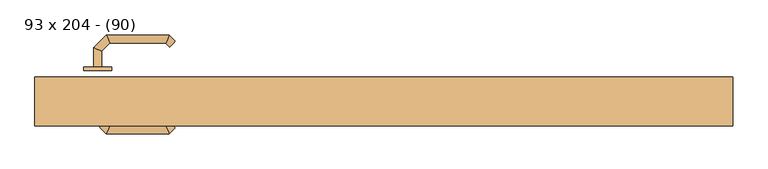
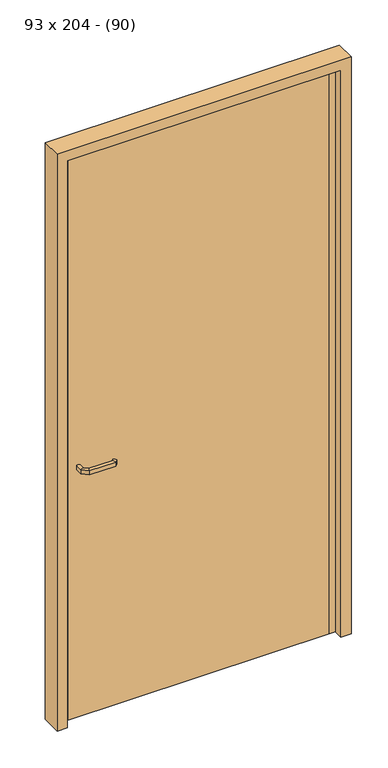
"""IFC4 building model written with IfcOpenShell, lengths in millimetres: door geometry, C&L Int. simple vantail (Dormant fixe) : 93 x 204 - (90)."""

from ifc_helpers import new_model, si_unit, point, frame, frame_2d, origin, origin_with_axes, place, context, project, spatial, polyline, circle_curve, ellipse_curve, trimmed, segment, composite_curve, outline, extrude, faceted_brep, source, transform, mapped, element, save
from ifc_brep_helpers import plane_surface, cylinder_surface, advanced_brep


def door_93_x_204_90_f07c62f8(model_context):
    return source(origin(), model_context, "Body", "SolidModel", [
        extrude(outline(composite_curve([segment(trimmed(circle_curve(frame_2d((804.6410162, -410.0)), 40.0), [point((770.0, -430.0))], [point((770.0, -390.0))], False, "CARTESIAN"), True, "CONTINUOUS"), segment(polyline([(770.0, -390.0), (980.0, -390.0)]), True, "CONTINUOUS"), segment(trimmed(circle_curve(frame_2d((945.3589838, -410.0)), 40.0), [point((980.0, -390.0))], [point((980.0, -430.0))], False, "CARTESIAN"), True, "CONTINUOUS"), segment(polyline([(980.0, -430.0), (770.0, -430.0)]), True, "CONTINUOUS")], self_intersect=False)), frame((0.0, -88.0, 0.0), z_axis=(0.0, 1.0, 0.0), x_axis=(0.0, 0.0, 1.0)), (0.0, 0.0, 1.0), 5.0),
        extrude(outline(composite_curve([segment(trimmed(circle_curve(frame_2d((945.3589838, -410.0)), 40.0), [point((980.0, -390.0))], [point((980.0, -430.0))], False, "CARTESIAN"), True, "CONTINUOUS"), segment(polyline([(980.0, -430.0), (770.0, -430.0)]), True, "CONTINUOUS"), segment(trimmed(circle_curve(frame_2d((804.6410162, -410.0)), 40.0), [point((770.0, -430.0))], [point((770.0, -390.0))], False, "CARTESIAN"), True, "CONTINUOUS"), segment(polyline([(770.0, -390.0), (980.0, -390.0)]), True, "CONTINUOUS")], self_intersect=False)), frame((0.0, -43.0, 0.0), z_axis=(0.0, 1.0, 0.0), x_axis=(0.0, 0.0, 1.0)), (0.0, 0.0, 1.0), 5.0),
        advanced_brep(
        [(-416.0, -88.0, 907.0), (-404.0, -88.0, 907.0), (-404.0, -88.0, 893.0), (-416.0, -88.0, 893.0), (-416.0, -115.6509507, 907.0), (-404.0, -110.680388, 907.0), (-404.0, -110.680388, 893.0), (-416.0, -115.6509507, 893.0), (-397.62279, -134.0281607, 907.0), (-392.6522273, -122.0281607, 907.0), (-392.6522273, -122.0281607, 893.0), (-397.62279, -134.0281607, 893.0), (-307.496078, -134.0281607, 907.0), (-312.4666408, -122.0281607, 907.0), (-312.4666408, -122.0281607, 893.0), (-307.496078, -134.0281607, 893.0), (-298.6676509, -125.1997336, 907.0), (-298.6676509, -125.1997336, 893.0), (-307.1529323, -116.7144522, 893.0), (-307.1529323, -116.7144522, 907.0)],
        [
            (0, 1, circle_curve(frame((-410.0, -88.0, 886.9542278), z_axis=(0.0, 1.0, 0.0), x_axis=(1.0, 0.0, 0.0)), 20.9244589)),
            (1, 2),
            (2, 3, circle_curve(frame((-410.0, -88.0, 913.0457722), z_axis=(0.0, 1.0, 0.0), x_axis=(1.0, 0.0, 0.0)), 20.9244589)),
            (3, 0),
            (0, 4),
            (4, 5, ellipse_curve(frame((-410.0, -113.1656693, 886.9542278), z_axis=(-0.3826834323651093, 0.9238795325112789, 0.0), x_axis=(0.9238795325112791, 0.38268343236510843, 0.0)), 22.6484711, 20.9244589)),
            (5, 1),
            (5, 6),
            (6, 2),
            (6, 7, ellipse_curve(frame((-410.0, -113.1656693, 913.0457722), z_axis=(-0.3826834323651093, 0.9238795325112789, 0.0), x_axis=(0.9238795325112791, 0.38268343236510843, 0.0)), 22.6484711, 20.9244589)),
            (7, 3),
            (7, 4),
            (4, 8),
            (8, 9, ellipse_curve(frame((-395.1375086, -128.0281607, 886.9542278), z_axis=(-0.9238795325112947, 0.38268343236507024, 0.0), x_axis=(0.3826834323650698, 0.9238795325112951, 0.0)), 22.6484711, 20.9244589)),
            (9, 5),
            (9, 10),
            (10, 6),
            (10, 11, ellipse_curve(frame((-395.1375086, -128.0281607, 913.0457722), z_axis=(-0.9238795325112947, 0.38268343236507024, 0.0), x_axis=(0.3826834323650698, 0.9238795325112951, 0.0)), 22.6484711, 20.9244589)),
            (11, 7),
            (11, 8),
            (8, 12),
            (12, 13, ellipse_curve(frame((-309.9813594, -128.0281607, 886.9542278), z_axis=(-0.9238795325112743, -0.3826834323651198, 0.0), x_axis=(-0.38268343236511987, 0.9238795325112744, 0.0)), 22.6484711, 20.9244589)),
            (13, 9),
            (13, 14),
            (14, 10),
            (14, 15, ellipse_curve(frame((-309.9813594, -128.0281607, 913.0457722), z_axis=(-0.9238795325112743, -0.3826834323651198, 0.0), x_axis=(-0.38268343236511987, 0.9238795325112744, 0.0)), 22.6484711, 20.9244589)),
            (15, 11),
            (15, 12),
            (16, 17),
            (17, 18, circle_curve(frame((-302.9102916, -120.9570929, 913.0457722), z_axis=(0.7071067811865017, 0.7071067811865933, 0.0), x_axis=(-0.7071067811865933, 0.7071067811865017, 0.0)), 20.9244589)),
            (18, 19),
            (19, 16, circle_curve(frame((-302.9102916, -120.9570929, 886.9542278), z_axis=(0.7071067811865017, 0.7071067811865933, 0.0), x_axis=(-0.7071067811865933, 0.7071067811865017, 0.0)), 20.9244589)),
            (12, 16),
            (19, 13),
            (18, 14),
            (17, 15),
        ],
        [
            plane_surface(frame((-419.2195445, -88.0, 900.0), z_axis=(0.0, 1.0, 0.0), x_axis=(0.0, 0.0, -1.0))),
            cylinder_surface(frame((-410.0, -88.0, 886.9542278), z_axis=(0.0, 1.0, 0.0), x_axis=(1.0, 0.0, 0.0)), 20.9244589),
            plane_surface(frame((-404.0, -88.0, 907.0), z_axis=(1.0, 0.0, 0.0), x_axis=(0.0, -1.0, 0.0))),
            cylinder_surface(frame((-410.0, -88.0, 913.0457722), z_axis=(0.0, 1.0, 0.0), x_axis=(1.0, 0.0, 0.0)), 20.9244589),
            plane_surface(frame((-416.0, -88.0, 893.0), z_axis=(-1.0, 0.0, 0.0), x_axis=(0.0, -1.0, 0.0))),
            cylinder_surface(frame((-410.0, -113.1656693, 886.9542278), z_axis=(-0.7071067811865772, 0.7071067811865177, 0.0), x_axis=(0.7071067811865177, 0.7071067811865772, 0.0)), 20.9244589),
            plane_surface(frame((-404.0, -110.680388, 907.0), z_axis=(0.7071067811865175, 0.7071067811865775, 0.0), x_axis=(0.7071067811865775, -0.7071067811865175, 0.0))),
            cylinder_surface(frame((-410.0, -113.1656693, 913.0457722), z_axis=(-0.7071067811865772, 0.7071067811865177, 0.0), x_axis=(0.7071067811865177, 0.7071067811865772, 0.0)), 20.9244589),
            plane_surface(frame((-416.0, -115.6509507, 893.0), z_axis=(-0.7071067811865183, -0.7071067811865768, 0.0), x_axis=(0.7071067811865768, -0.7071067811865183, 0.0))),
            cylinder_surface(frame((-395.1375086, -128.0281607, 886.9542278), z_axis=(-1.0, 0.0, 0.0), x_axis=(0.0, 1.0, 0.0)), 20.9244589),
            plane_surface(frame((-392.6522273, -122.0281607, 907.0), z_axis=(0.0, 1.0, 0.0), x_axis=(1.0, 0.0, 0.0))),
            cylinder_surface(frame((-395.1375086, -128.0281607, 913.0457722), z_axis=(-1.0, 0.0, 0.0), x_axis=(0.0, 1.0, 0.0)), 20.9244589),
            plane_surface(frame((-397.62279, -134.0281607, 893.0), z_axis=(0.0, -1.0, 0.0), x_axis=(1.0, 0.0, 0.0))),
            plane_surface(frame((-302.9102916, -120.9570929, 909.2195445), z_axis=(0.7071067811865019, 0.7071067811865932, 0.0), x_axis=(0.7071067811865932, -0.7071067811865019, 0.0))),
            cylinder_surface(frame((-309.9813594, -128.0281607, 886.9542278), z_axis=(-0.7071067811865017, -0.7071067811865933, 0.0), x_axis=(-0.7071067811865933, 0.7071067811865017, 0.0)), 20.9244589),
            plane_surface(frame((-312.4666408, -122.0281607, 907.0), z_axis=(-0.7071067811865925, 0.7071067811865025, 0.0), x_axis=(0.7071067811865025, 0.7071067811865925, 0.0))),
            cylinder_surface(frame((-309.9813594, -128.0281607, 913.0457722), z_axis=(-0.7071067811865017, -0.7071067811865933, 0.0), x_axis=(-0.7071067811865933, 0.7071067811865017, 0.0)), 20.9244589),
            plane_surface(frame((-307.496078, -134.0281607, 893.0), z_axis=(0.707106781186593, -0.7071067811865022, 0.0), x_axis=(0.7071067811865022, 0.707106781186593, 0.0))),
        ],
        [
            (0, [[1, 2, 3, 4]]),
            (1, [[-1, 5, 6, 7]]),
            (2, [[-2, -7, 8, 9]]),
            (3, [[-3, -9, 10, 11]]),
            (4, [[-4, -11, 12, -5]]),
            (5, [[-6, 13, 14, 15]]),
            (6, [[-8, -15, 16, 17]]),
            (7, [[-10, -17, 18, 19]]),
            (8, [[-12, -19, 20, -13]]),
            (9, [[-14, 21, 22, 23]]),
            (10, [[-16, -23, 24, 25]]),
            (11, [[-18, -25, 26, 27]]),
            (12, [[-20, -27, 28, -21]]),
            (13, [[29, 30, 31, 32]]),
            (14, [[-22, 33, -32, 34]]),
            (15, [[-24, -34, -31, 35]]),
            (16, [[-26, -35, -30, 36]]),
            (17, [[-28, -36, -29, -33]]),
        ],
    ),
        advanced_brep(
        [(-404.0, -38.0, 893.0), (-404.0, -38.0, 907.0), (-416.0, -38.0, 907.0), (-416.0, -38.0, 893.0), (-404.0, -15.5147955, 893.0), (-404.0, -15.5147955, 907.0), (-416.0, -10.5442327, 907.0), (-416.0, -10.5442327, 893.0), (-392.5147186, -4.0295141, 893.0), (-392.5147186, -4.0295141, 907.0), (-397.4852814, 7.9704859, 907.0), (-397.4852814, 7.9704859, 893.0), (-312.4394977, -4.0295141, 893.0), (-312.4394977, -4.0295141, 907.0), (-307.468935, 7.9704859, 907.0), (-307.468935, 7.9704859, 893.0), (-307.1257892, -9.3432226, 893.0), (-298.6405078, -0.8579412, 893.0), (-298.6405078, -0.8579412, 907.0), (-307.1257892, -9.3432226, 907.0)],
        [
            (0, 1),
            (1, 2, circle_curve(frame((-410.0, -38.0, 886.9542278), z_axis=(0.0, -1.0, 0.0), x_axis=(-1.0, 0.0, 0.0)), 20.9244589)),
            (2, 3),
            (3, 0, circle_curve(frame((-410.0, -38.0, 913.0457722), z_axis=(0.0, -1.0, 0.0), x_axis=(-1.0, 0.0, 0.0)), 20.9244589)),
            (0, 4),
            (4, 5),
            (5, 1),
            (5, 6, ellipse_curve(frame((-410.0, -13.0295141, 886.9542278), z_axis=(-0.3826834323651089, -0.9238795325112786, 0.0), x_axis=(0.9238795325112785, -0.3826834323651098, 0.0)), 22.6484711, 20.9244589)),
            (6, 2),
            (6, 7),
            (7, 3),
            (7, 4, ellipse_curve(frame((-410.0, -13.0295141, 913.0457722), z_axis=(-0.3826834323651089, -0.9238795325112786, 0.0), x_axis=(0.9238795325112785, -0.3826834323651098, 0.0)), 22.6484711, 20.9244589)),
            (4, 8),
            (8, 9),
            (9, 5),
            (9, 10, ellipse_curve(frame((-395.0, 1.9704859, 886.9542278), z_axis=(-0.9238795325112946, -0.38268343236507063, 0.0), x_axis=(0.3826834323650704, -0.9238795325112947, 0.0)), 22.6484711, 20.9244589)),
            (10, 6),
            (10, 11),
            (11, 7),
            (11, 8, ellipse_curve(frame((-395.0, 1.9704859, 913.0457722), z_axis=(-0.9238795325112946, -0.38268343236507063, 0.0), x_axis=(0.3826834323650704, -0.9238795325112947, 0.0)), 22.6484711, 20.9244589)),
            (8, 12),
            (12, 13),
            (13, 9),
            (13, 14, ellipse_curve(frame((-309.9542163, 1.9704859, 886.9542278), z_axis=(-0.9238795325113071, 0.38268343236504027, 0.0), x_axis=(-0.38268343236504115, -0.9238795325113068, 0.0)), 22.6484711, 20.9244589)),
            (14, 10),
            (14, 15),
            (15, 11),
            (15, 12, ellipse_curve(frame((-309.9542163, 1.9704859, 913.0457722), z_axis=(-0.9238795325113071, 0.38268343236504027, 0.0), x_axis=(-0.38268343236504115, -0.9238795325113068, 0.0)), 22.6484711, 20.9244589)),
            (16, 17, circle_curve(frame((-302.8831485, -5.1005819, 913.0457722), z_axis=(0.7071067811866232, -0.7071067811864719, 0.0), x_axis=(0.7071067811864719, 0.7071067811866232, 0.0)), 20.9244589)),
            (17, 18),
            (18, 19, circle_curve(frame((-302.8831485, -5.1005819, 886.9542278), z_axis=(0.7071067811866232, -0.7071067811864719, 0.0), x_axis=(0.7071067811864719, 0.7071067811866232, 0.0)), 20.9244589)),
            (19, 16),
            (12, 16),
            (19, 13),
            (18, 14),
            (17, 15),
        ],
        [
            plane_surface(frame((-419.2195445, -38.0, 900.0), z_axis=(0.0, -1.0, 0.0), x_axis=(0.0, 0.0, 1.0))),
            plane_surface(frame((-404.0, -38.0, 893.0), z_axis=(1.0, 0.0, 0.0), x_axis=(0.0, 1.0, 0.0))),
            cylinder_surface(frame((-410.0, -38.0, 886.9542278), z_axis=(0.0, -1.0, 0.0), x_axis=(-1.0, 0.0, 0.0)), 20.9244589),
            plane_surface(frame((-416.0, -38.0, 907.0), z_axis=(-1.0, 0.0, 0.0), x_axis=(0.0, 1.0, 0.0))),
            cylinder_surface(frame((-410.0, -38.0, 913.0457722), z_axis=(0.0, -1.0, 0.0), x_axis=(-1.0, 0.0, 0.0)), 20.9244589),
            plane_surface(frame((-404.0, -15.5147955, 893.0), z_axis=(0.707106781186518, -0.707106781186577, 0.0), x_axis=(0.707106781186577, 0.707106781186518, 0.0))),
            cylinder_surface(frame((-410.0, -13.0295141, 886.9542278), z_axis=(-0.7071067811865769, -0.7071067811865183, 0.0), x_axis=(-0.7071067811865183, 0.7071067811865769, 0.0)), 20.9244589),
            plane_surface(frame((-416.0, -10.5442327, 907.0), z_axis=(-0.7071067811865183, 0.7071067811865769, 0.0), x_axis=(0.7071067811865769, 0.7071067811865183, 0.0))),
            cylinder_surface(frame((-410.0, -13.0295141, 913.0457722), z_axis=(-0.7071067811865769, -0.7071067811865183, 0.0), x_axis=(-0.7071067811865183, 0.7071067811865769, 0.0)), 20.9244589),
            plane_surface(frame((-392.5147186, -4.0295141, 893.0), z_axis=(0.0, -1.0, 0.0), x_axis=(1.0, 0.0, 0.0))),
            cylinder_surface(frame((-395.0, 1.9704859, 886.9542278), z_axis=(-1.0, 0.0, 0.0), x_axis=(0.0, 1.0, 0.0)), 20.9244589),
            plane_surface(frame((-397.4852814, 7.9704859, 907.0), z_axis=(0.0, 1.0, 0.0), x_axis=(1.0, 0.0, 0.0))),
            cylinder_surface(frame((-395.0, 1.9704859, 913.0457722), z_axis=(-1.0, 0.0, 0.0), x_axis=(0.0, 1.0, 0.0)), 20.9244589),
            plane_surface(frame((-302.8831485, -5.1005819, 890.7804555), z_axis=(0.7071067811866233, -0.7071067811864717, 0.0), x_axis=(0.7071067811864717, 0.7071067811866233, 0.0))),
            plane_surface(frame((-312.4394977, -4.0295141, 893.0), z_axis=(-0.7071067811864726, -0.7071067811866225, 0.0), x_axis=(0.7071067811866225, -0.7071067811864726, 0.0))),
            cylinder_surface(frame((-309.9542163, 1.9704859, 886.9542278), z_axis=(-0.7071067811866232, 0.7071067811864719, 0.0), x_axis=(0.7071067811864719, 0.7071067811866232, 0.0)), 20.9244589),
            plane_surface(frame((-307.468935, 7.9704859, 907.0), z_axis=(0.7071067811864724, 0.7071067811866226, 0.0), x_axis=(0.7071067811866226, -0.7071067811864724, 0.0))),
            cylinder_surface(frame((-309.9542163, 1.9704859, 913.0457722), z_axis=(-0.7071067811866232, 0.7071067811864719, 0.0), x_axis=(0.7071067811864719, 0.7071067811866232, 0.0)), 20.9244589),
        ],
        [
            (0, [[1, 2, 3, 4]]),
            (1, [[-1, 5, 6, 7]]),
            (2, [[-2, -7, 8, 9]]),
            (3, [[-3, -9, 10, 11]]),
            (4, [[-4, -11, 12, -5]]),
            (5, [[-6, 13, 14, 15]]),
            (6, [[-8, -15, 16, 17]]),
            (7, [[-10, -17, 18, 19]]),
            (8, [[-12, -19, 20, -13]]),
            (9, [[-14, 21, 22, 23]]),
            (10, [[-16, -23, 24, 25]]),
            (11, [[-18, -25, 26, 27]]),
            (12, [[-20, -27, 28, -21]]),
            (13, [[29, 30, 31, 32]]),
            (14, [[-22, 33, -32, 34]]),
            (15, [[-24, -34, -31, 35]]),
            (16, [[-26, -35, -30, 36]]),
            (17, [[-28, -36, -29, -33]]),
        ],
    ),
        faceted_brep([(-500.0, -53.0, 0.0), (-445.0, -53.0, 0.0), (-445.0, -91.0, 0.0), (-465.0, -91.0, 0.0), (-465.0, -123.0, 0.0), (-500.0, -123.0, 0.0), (-500.0, -53.0, 2075.0), (500.0, -53.0, 2075.0), (500.0, -53.0, 0.0), (445.0, -53.0, 0.0), (445.0, -53.0, 2020.0), (-445.0, -53.0, 2020.0), (-445.0, -91.0, 2020.0), (445.0, -91.0, 2020.0), (445.0, -91.0, 0.0), (465.0, -91.0, 0.0), (465.0, -91.0, 2040.0), (-465.0, -91.0, 2040.0), (-465.0, -123.0, 2040.0), (465.0, -123.0, 2040.0), (465.0, -123.0, 0.0), (500.0, -123.0, 0.0), (500.0, -123.0, 2075.0), (-500.0, -123.0, 2075.0)], [[[0, 1, 2, 3, 4, 5]], [[1, 0, 6, 7, 8, 9, 10, 11]], [[2, 1, 11, 12]], [[3, 2, 12, 13, 14, 15, 16, 17]], [[4, 3, 17, 18]], [[5, 4, 18, 19, 20, 21, 22, 23]], [[0, 5, 23, 6]], [[12, 11, 10, 13]], [[18, 17, 16, 19]], [[6, 23, 22, 7]], [[8, 21, 20, 15, 14, 9]], [[13, 10, 9, 14]], [[19, 16, 15, 20]], [[7, 22, 21, 8]]]),
        extrude(outline(polyline([(465.0, -91.0), (-465.0, -91.0), (-465.0, -83.0), (465.0, -83.0), (465.0, -91.0)])), origin_with_axes(), (0.0, 0.0, 1.0), 2040.0),
    ])


if __name__ == "__main__":
    model = new_model("IFC4")
    model_context = context("Model", 3, world=origin())
    ifc_project = project(units=[si_unit("LENGTHUNIT", "METRE", prefix="MILLI")], contexts=[model_context])
    site = spatial("IfcSite", under=ifc_project)
    building = spatial("IfcBuilding", under=site)
    placement = place(None, origin())
    door_93_x_204_90_shape = door_93_x_204_90_f07c62f8(model_context)
    element("IfcDoor", 1, ObjectType="C&L Int. simple vantail (Dormant fixe) : 93 x 204 - (90)", at=placement, inside=building, context=model_context, shape_type="MappedRepresentation", body=[
        mapped(door_93_x_204_90_shape, transform((0.0, 0.0, 0.0), x_axis=(1.0, 0.0, 0.0), y_axis=(0.0, 1.0, 0.0), z_axis=(0.0, 0.0, 1.0))),
    ])
    save(model, "model.ifc")
